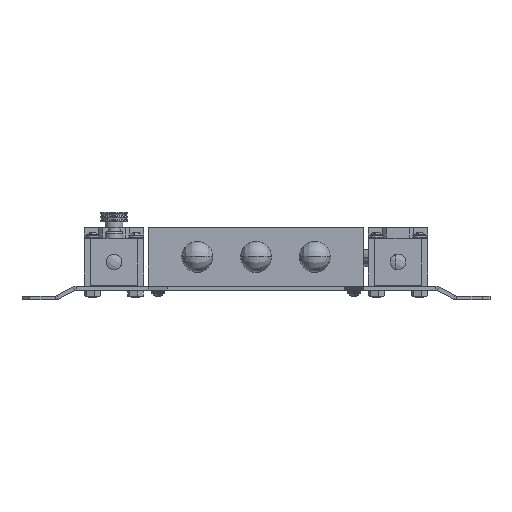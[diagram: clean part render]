
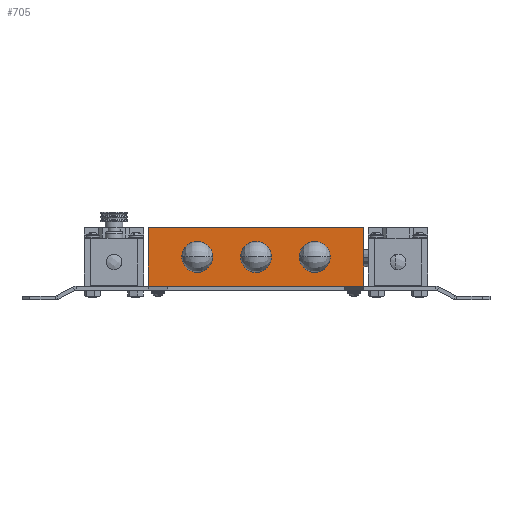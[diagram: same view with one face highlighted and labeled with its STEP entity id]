
A CAD part, front view. The second image highlights one B-rep face of the part: STEP entity #705.
In plain terms, the highlighted planar face has unit normal (0, -1, 0).
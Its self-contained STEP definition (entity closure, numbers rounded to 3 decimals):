
#110=FACE_BOUND('',#2482,.T.);
#111=FACE_BOUND('',#2483,.T.);
#112=FACE_BOUND('',#2484,.T.);
#705=ADVANCED_FACE('',(#1574,#110,#111,#112),#13326,.T.);
#1574=FACE_OUTER_BOUND('',#2481,.T.);
#2481=EDGE_LOOP('',(#5467,#5468,#5469,#5470));
#2482=EDGE_LOOP('',(#5471,#5472));
#2483=EDGE_LOOP('',(#5473,#5474));
#2484=EDGE_LOOP('',(#5475,#5476));
#5467=ORIENTED_EDGE('',*,*,#8610,.F.);
#5468=ORIENTED_EDGE('',*,*,#8611,.F.);
#5469=ORIENTED_EDGE('',*,*,#8612,.F.);
#5470=ORIENTED_EDGE('',*,*,#8613,.F.);
#5471=ORIENTED_EDGE('',*,*,#8595,.F.);
#5472=ORIENTED_EDGE('',*,*,#8676,.F.);
#5473=ORIENTED_EDGE('',*,*,#8674,.F.);
#5474=ORIENTED_EDGE('',*,*,#8600,.F.);
#5475=ORIENTED_EDGE('',*,*,#8678,.F.);
#5476=ORIENTED_EDGE('',*,*,#8590,.F.);
#8590=EDGE_CURVE('',#12571,#12572,#10032,.T.);
#8595=EDGE_CURVE('',#12575,#12576,#10035,.T.);
#8600=EDGE_CURVE('',#12579,#12580,#10038,.T.);
#8610=EDGE_CURVE('',#12589,#12590,#11240,.T.);
#8611=EDGE_CURVE('',#12591,#12589,#11241,.T.);
#8612=EDGE_CURVE('',#12592,#12591,#11242,.T.);
#8613=EDGE_CURVE('',#12590,#12592,#11243,.T.);
#8674=EDGE_CURVE('',#12580,#12579,#10047,.T.);
#8676=EDGE_CURVE('',#12576,#12575,#10049,.T.);
#8678=EDGE_CURVE('',#12572,#12571,#10051,.T.);
#10032=(
BOUNDED_CURVE()
B_SPLINE_CURVE(2,(#30895,#30896,#30897,#30898,#30899),.UNSPECIFIED.,.F.,
 .F.)
B_SPLINE_CURVE_WITH_KNOTS((3,2,3),(0.,12.409,24.819),
 .UNSPECIFIED.)
CURVE()
GEOMETRIC_REPRESENTATION_ITEM()
RATIONAL_B_SPLINE_CURVE((1.,0.707,1.,0.707,1.))
REPRESENTATION_ITEM('')
);
#10035=(
BOUNDED_CURVE()
B_SPLINE_CURVE(2,(#30914,#30915,#30916,#30917,#30918),.UNSPECIFIED.,.F.,
 .F.)
B_SPLINE_CURVE_WITH_KNOTS((3,2,3),(0.,12.409,24.819),
 .UNSPECIFIED.)
CURVE()
GEOMETRIC_REPRESENTATION_ITEM()
RATIONAL_B_SPLINE_CURVE((1.,0.707,1.,0.707,1.))
REPRESENTATION_ITEM('')
);
#10038=(
BOUNDED_CURVE()
B_SPLINE_CURVE(2,(#30933,#30934,#30935,#30936,#30937),.UNSPECIFIED.,.F.,
 .F.)
B_SPLINE_CURVE_WITH_KNOTS((3,2,3),(0.,12.409,24.819),
 .UNSPECIFIED.)
CURVE()
GEOMETRIC_REPRESENTATION_ITEM()
RATIONAL_B_SPLINE_CURVE((1.,0.707,1.,0.707,1.))
REPRESENTATION_ITEM('')
);
#10047=(
BOUNDED_CURVE()
B_SPLINE_CURVE(2,(#31108,#31109,#31110,#31111,#31112),.UNSPECIFIED.,.F.,
 .F.)
B_SPLINE_CURVE_WITH_KNOTS((3,2,3),(0.,12.409,24.819),
 .UNSPECIFIED.)
CURVE()
GEOMETRIC_REPRESENTATION_ITEM()
RATIONAL_B_SPLINE_CURVE((1.,0.707,1.,0.707,1.))
REPRESENTATION_ITEM('')
);
#10049=(
BOUNDED_CURVE()
B_SPLINE_CURVE(2,(#31118,#31119,#31120,#31121,#31122),.UNSPECIFIED.,.F.,
 .F.)
B_SPLINE_CURVE_WITH_KNOTS((3,2,3),(0.,12.409,24.819),
 .UNSPECIFIED.)
CURVE()
GEOMETRIC_REPRESENTATION_ITEM()
RATIONAL_B_SPLINE_CURVE((1.,0.707,1.,0.707,1.))
REPRESENTATION_ITEM('')
);
#10051=(
BOUNDED_CURVE()
B_SPLINE_CURVE(2,(#31128,#31129,#31130,#31131,#31132),.UNSPECIFIED.,.F.,
 .F.)
B_SPLINE_CURVE_WITH_KNOTS((3,2,3),(0.,12.409,24.819),
 .UNSPECIFIED.)
CURVE()
GEOMETRIC_REPRESENTATION_ITEM()
RATIONAL_B_SPLINE_CURVE((1.,0.707,1.,0.707,1.))
REPRESENTATION_ITEM('')
);
#11240=B_SPLINE_CURVE_WITH_KNOTS('',1,(#30968,#30969),.UNSPECIFIED.,.F.,
 .F.,(2,2),(-110.,0.),.UNSPECIFIED.);
#11241=B_SPLINE_CURVE_WITH_KNOTS('',1,(#30970,#30971),.UNSPECIFIED.,.F.,
 .F.,(2,2),(0.,30.),.UNSPECIFIED.);
#11242=B_SPLINE_CURVE_WITH_KNOTS('',1,(#30972,#30973),.UNSPECIFIED.,.F.,
 .F.,(2,2),(0.,110.),.UNSPECIFIED.);
#11243=B_SPLINE_CURVE_WITH_KNOTS('',1,(#30974,#30975),.UNSPECIFIED.,.F.,
 .F.,(2,2),(-30.,0.),.UNSPECIFIED.);
#12571=VERTEX_POINT('',#30629);
#12572=VERTEX_POINT('',#30630);
#12575=VERTEX_POINT('',#30633);
#12576=VERTEX_POINT('',#30634);
#12579=VERTEX_POINT('',#30637);
#12580=VERTEX_POINT('',#30638);
#12589=VERTEX_POINT('',#30647);
#12590=VERTEX_POINT('',#30648);
#12591=VERTEX_POINT('',#30649);
#12592=VERTEX_POINT('',#30650);
#13326=PLANE('',#14281);
#14281=AXIS2_PLACEMENT_3D('',#30056,#14685,$);
#14685=DIRECTION('',(0.,-1.,0.));
#30056=CARTESIAN_POINT('',(66.001,0.1,35.001));
#30629=CARTESIAN_POINT('',(37.9,0.1,17.));
#30630=CARTESIAN_POINT('',(22.1,0.1,17.));
#30633=CARTESIAN_POINT('',(-22.1,0.1,17.));
#30634=CARTESIAN_POINT('',(-37.9,0.1,17.));
#30637=CARTESIAN_POINT('',(7.9,0.1,17.));
#30638=CARTESIAN_POINT('',(-7.9,0.1,17.));
#30647=CARTESIAN_POINT('',(55.,0.1,2.));
#30648=CARTESIAN_POINT('',(-55.,0.1,2.));
#30649=CARTESIAN_POINT('',(55.,0.1,32.));
#30650=CARTESIAN_POINT('',(-55.,0.1,32.));
#30895=CARTESIAN_POINT('',(37.9,0.1,17.));
#30896=CARTESIAN_POINT('',(37.9,0.1,24.9));
#30897=CARTESIAN_POINT('',(30.,0.1,24.9));
#30898=CARTESIAN_POINT('',(22.1,0.1,24.9));
#30899=CARTESIAN_POINT('',(22.1,0.1,17.));
#30914=CARTESIAN_POINT('',(-22.1,0.1,17.));
#30915=CARTESIAN_POINT('',(-22.1,0.1,24.9));
#30916=CARTESIAN_POINT('',(-30.,0.1,24.9));
#30917=CARTESIAN_POINT('',(-37.9,0.1,24.9));
#30918=CARTESIAN_POINT('',(-37.9,0.1,17.));
#30933=CARTESIAN_POINT('',(7.9,0.1,17.));
#30934=CARTESIAN_POINT('',(7.9,0.1,24.9));
#30935=CARTESIAN_POINT('',(0.,0.1,24.9));
#30936=CARTESIAN_POINT('',(-7.9,0.1,24.9));
#30937=CARTESIAN_POINT('',(-7.9,0.1,17.));
#30968=CARTESIAN_POINT('',(55.,0.1,2.));
#30969=CARTESIAN_POINT('',(-55.,0.1,2.));
#30970=CARTESIAN_POINT('',(55.,0.1,32.));
#30971=CARTESIAN_POINT('',(55.,0.1,2.));
#30972=CARTESIAN_POINT('',(-55.,0.1,32.));
#30973=CARTESIAN_POINT('',(55.,0.1,32.));
#30974=CARTESIAN_POINT('',(-55.,0.1,2.));
#30975=CARTESIAN_POINT('',(-55.,0.1,32.));
#31108=CARTESIAN_POINT('',(-7.9,0.1,17.));
#31109=CARTESIAN_POINT('',(-7.9,0.1,9.1));
#31110=CARTESIAN_POINT('',(0.,0.1,9.1));
#31111=CARTESIAN_POINT('',(7.9,0.1,9.1));
#31112=CARTESIAN_POINT('',(7.9,0.1,17.));
#31118=CARTESIAN_POINT('',(-37.9,0.1,17.));
#31119=CARTESIAN_POINT('',(-37.9,0.1,9.1));
#31120=CARTESIAN_POINT('',(-30.,0.1,9.1));
#31121=CARTESIAN_POINT('',(-22.1,0.1,9.1));
#31122=CARTESIAN_POINT('',(-22.1,0.1,17.));
#31128=CARTESIAN_POINT('',(22.1,0.1,17.));
#31129=CARTESIAN_POINT('',(22.1,0.1,9.1));
#31130=CARTESIAN_POINT('',(30.,0.1,9.1));
#31131=CARTESIAN_POINT('',(37.9,0.1,9.1));
#31132=CARTESIAN_POINT('',(37.9,0.1,17.));
